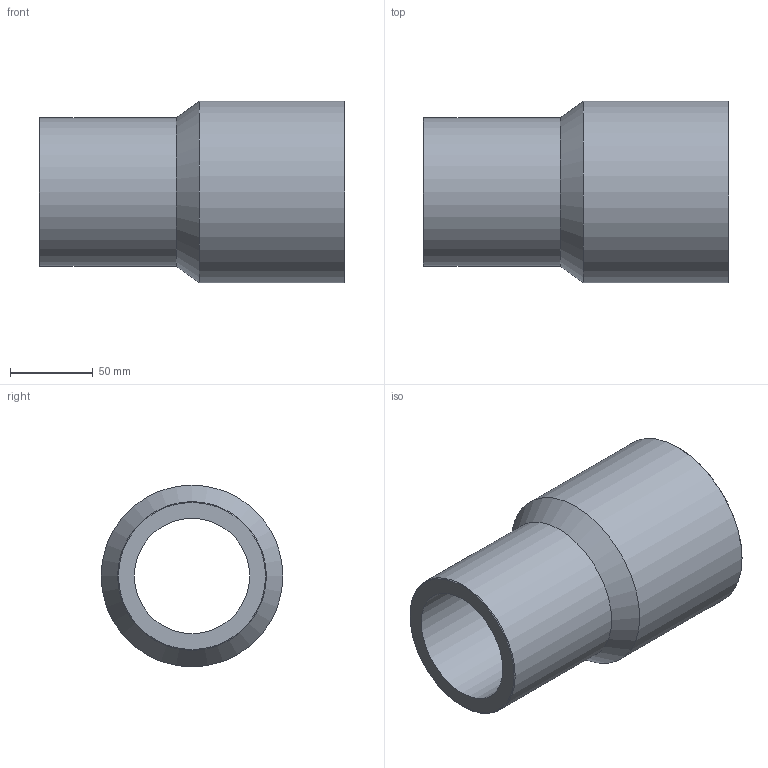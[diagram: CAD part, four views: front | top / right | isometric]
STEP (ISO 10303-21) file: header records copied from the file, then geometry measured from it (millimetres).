
FILE_DESCRIPTION(/* description */ ('Unknown'),/* implementation_level */ '2;1');
FILE_NAME(/* name */ 'RP110090G',/* time_stamp */ '2021-09-16T15:58:47+02:00',/* author */ ('Unknown'),/* organization */ ('Unknown'),/* preprocessor_version */ 'ST-DEVELOPER v16.7',/* originating_system */ 'Solid Edge',/* authorisation */ 'Unknown');
FILE_SCHEMA (('AUTOMOTIVE_DESIGN {1 0 10303 214 3 1 1}'));
Length unit declared in the file: millimetre
Products named in the file (1): RP110090G
Bounding box: 185 x 110 x 110 mm (x, y, z)
Volume: 600878.5 mm3; surface area: 110639.9 mm2
Topology: 1 solids, 1 shells, 10 faces, 19 edges, 11 vertices
Faces by surface type: cylinder 4, cone 4, plane 2
Full cylindrical faces by diameter (mm): 69.8 x1, 85.4 x1, 90 x1, 110 x1
Entity records: 238 total; most frequent: DIRECTION 42, CARTESIAN_POINT 31, AXIS2_PLACEMENT_3D 21, ORIENTED_EDGE 20, EDGE_LOOP 20, FACE_BOUND 20, EDGE_CURVE 10, VERTEX_POINT 10
